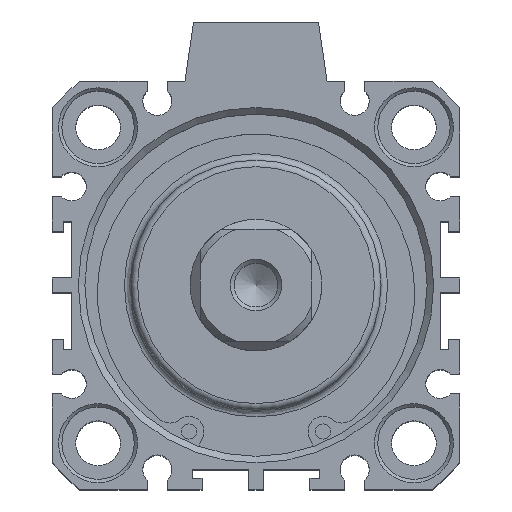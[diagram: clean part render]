
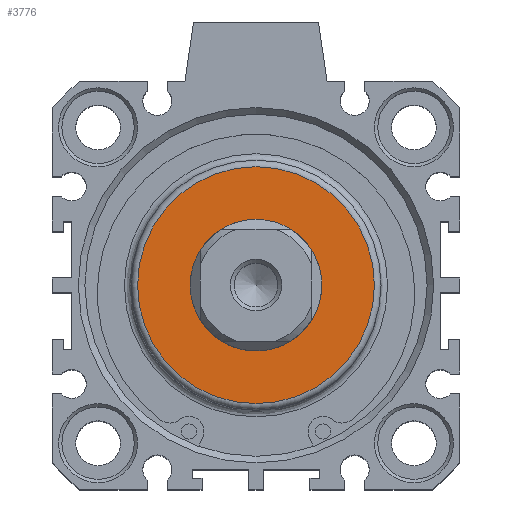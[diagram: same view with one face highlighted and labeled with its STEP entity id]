
A CAD part, top view. The second image highlights one B-rep face of the part: STEP entity #3776.
In plain terms, the highlighted planar face has unit normal (0, 0, 1).
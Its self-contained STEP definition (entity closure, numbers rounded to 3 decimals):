
#3276=CARTESIAN_POINT('',(-7.057,11.794,72.5));
#3277=VERTEX_POINT('',#3276);
#3278=CARTESIAN_POINT('',(-7.057,1.794,72.5));
#3279=DIRECTION('',(0.0,0.0,-1.0));
#3280=DIRECTION('',(0.0,1.0,0.0));
#3281=AXIS2_PLACEMENT_3D('',#3278,#3279,#3280);
#3282=CIRCLE('',#3281,10.);
#3283=EDGE_CURVE('',#3277,#3277,#3282,.T.);
#3750=CARTESIAN_POINT('',(-7.057,19.794,72.5));
#3751=VERTEX_POINT('',#3750);
#3752=CARTESIAN_POINT('',(-7.057,1.794,72.5));
#3753=DIRECTION('',(0.0,0.0,-1.0));
#3754=DIRECTION('',(0.0,-1.0,0.0));
#3755=AXIS2_PLACEMENT_3D('',#3752,#3753,#3754);
#3756=CIRCLE('',#3755,18.0);
#3757=EDGE_CURVE('',#3751,#3751,#3756,.T.);
#3765=CARTESIAN_POINT('',(-7.057,11.294,72.5));
#3766=DIRECTION('',(0.0,0.0,1.0));
#3767=DIRECTION('',(1.0,0.0,0.0));
#3768=AXIS2_PLACEMENT_3D('',#3765,#3766,#3767);
#3769=PLANE('',#3768);
#3770=ORIENTED_EDGE('',*,*,#3757,.F.);
#3771=EDGE_LOOP('',(#3770));
#3772=FACE_OUTER_BOUND('',#3771,.T.);
#3773=ORIENTED_EDGE('',*,*,#3283,.T.);
#3774=EDGE_LOOP('',(#3773));
#3775=FACE_BOUND('',#3774,.T.);
#3776=ADVANCED_FACE('',(#3772,#3775),#3769,.T.);
